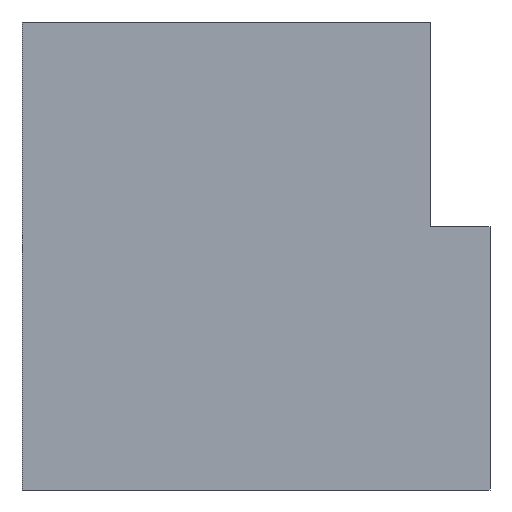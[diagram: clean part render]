
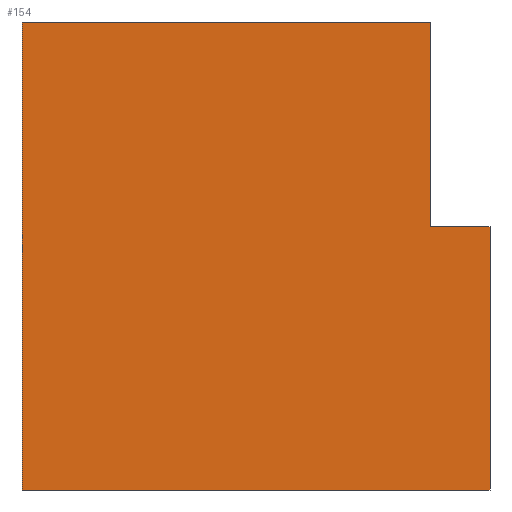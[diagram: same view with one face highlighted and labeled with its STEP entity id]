
A CAD part, left-side view. The second image highlights one B-rep face of the part: STEP entity #154.
In plain terms, the highlighted planar face has unit normal (-1, 0, 0).
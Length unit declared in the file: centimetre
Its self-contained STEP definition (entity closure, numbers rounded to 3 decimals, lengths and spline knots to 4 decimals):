
#23 = CARTESIAN_POINT ( 'NONE',  ( 0., 126.245, 1000. ) ) ;
#31 = VECTOR ( 'NONE', #78, 100. ) ;
#47 = CARTESIAN_POINT ( 'NONE',  ( 0., 1000., 1000. ) ) ;
#78 = DIRECTION ( 'NONE',  ( 0., 0., -1. ) ) ;
#83 = LINE ( 'NONE', #599, #31 ) ;
#89 = DIRECTION ( 'NONE',  ( 1., 0., 0. ) ) ;
#92 = CARTESIAN_POINT ( 'NONE',  ( 0., 0., 562.4219 ) ) ;
#110 = VECTOR ( 'NONE', #360, 100. ) ;
#111 = CARTESIAN_POINT ( 'NONE',  ( 0., 0., 562.4219 ) ) ;
#113 = VERTEX_POINT ( 'NONE', #437 ) ;
#114 = EDGE_CURVE ( 'NONE', #725, #679, #277, .T. ) ;
#117 = CARTESIAN_POINT ( 'NONE',  ( 0., 126.245, 562.4219 ) ) ;
#130 = EDGE_CURVE ( 'NONE', #294, #288, #432, .T. ) ;
#141 = FACE_OUTER_BOUND ( 'NONE', #331, .T. ) ;
#154 = ADVANCED_FACE ( 'NONE', ( #141 ), #268, .F. ) ;
#169 = VECTOR ( 'NONE', #671, 100. ) ;
#187 = EDGE_CURVE ( 'NONE', #288, #679, #83, .T. ) ;
#205 = DIRECTION ( 'NONE',  ( 0., -1., 0. ) ) ;
#251 = ORIENTED_EDGE ( 'NONE', *, *, #130, .F. ) ;
#268 = PLANE ( 'NONE',  #488 ) ;
#277 = LINE ( 'NONE', #325, #637 ) ;
#285 = DIRECTION ( 'NONE',  ( 0., 0., -1. ) ) ;
#288 = VERTEX_POINT ( 'NONE', #111 ) ;
#294 = VERTEX_POINT ( 'NONE', #748 ) ;
#325 = CARTESIAN_POINT ( 'NONE',  ( 0., 1000., 0. ) ) ;
#331 = EDGE_LOOP ( 'NONE', ( #664, #251, #505, #589, #410, #451 ) ) ;
#345 = EDGE_CURVE ( 'NONE', #113, #725, #462, .T. ) ;
#354 = CARTESIAN_POINT ( 'NONE',  ( 0., 1000., 1000. ) ) ;
#358 = DIRECTION ( 'NONE',  ( 0., -1., 0. ) ) ;
#360 = DIRECTION ( 'NONE',  ( 0., 0., -1. ) ) ;
#389 = DIRECTION ( 'NONE',  ( 0., 0., -1. ) ) ;
#395 = VECTOR ( 'NONE', #358, 100. ) ;
#410 = ORIENTED_EDGE ( 'NONE', *, *, #345, .T. ) ;
#432 = LINE ( 'NONE', #92, #169 ) ;
#435 = EDGE_CURVE ( 'NONE', #113, #611, #642, .T. ) ;
#436 = CARTESIAN_POINT ( 'NONE',  ( 0., 0., 0. ) ) ;
#437 = CARTESIAN_POINT ( 'NONE',  ( 0., 1000., 1000. ) ) ;
#443 = EDGE_CURVE ( 'NONE', #611, #294, #588, .T. ) ;
#451 = ORIENTED_EDGE ( 'NONE', *, *, #114, .T. ) ;
#462 = LINE ( 'NONE', #47, #606 ) ;
#488 = AXIS2_PLACEMENT_3D ( 'NONE', #610, #89, #389 ) ;
#505 = ORIENTED_EDGE ( 'NONE', *, *, #443, .F. ) ;
#532 = CARTESIAN_POINT ( 'NONE',  ( 0., 1000., 0. ) ) ;
#588 = LINE ( 'NONE', #117, #110 ) ;
#589 = ORIENTED_EDGE ( 'NONE', *, *, #435, .F. ) ;
#599 = CARTESIAN_POINT ( 'NONE',  ( 0., 0., 1000. ) ) ;
#606 = VECTOR ( 'NONE', #285, 100. ) ;
#610 = CARTESIAN_POINT ( 'NONE',  ( 0., 1000., 1000. ) ) ;
#611 = VERTEX_POINT ( 'NONE', #23 ) ;
#637 = VECTOR ( 'NONE', #205, 100. ) ;
#642 = LINE ( 'NONE', #354, #395 ) ;
#664 = ORIENTED_EDGE ( 'NONE', *, *, #187, .F. ) ;
#671 = DIRECTION ( 'NONE',  ( 0., -1., 0. ) ) ;
#679 = VERTEX_POINT ( 'NONE', #436 ) ;
#725 = VERTEX_POINT ( 'NONE', #532 ) ;
#748 = CARTESIAN_POINT ( 'NONE',  ( 0., 126.245, 562.4219 ) ) ;
